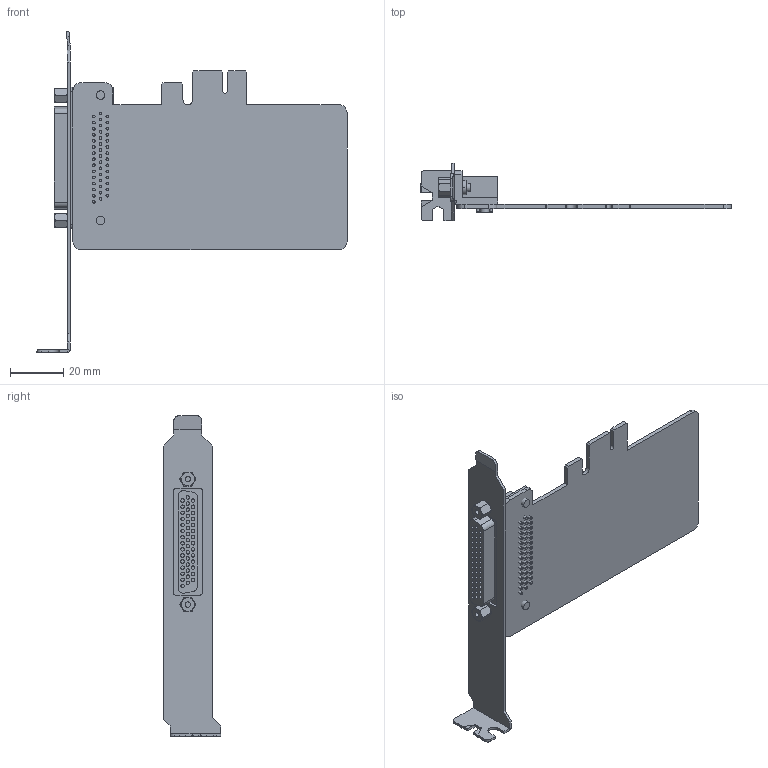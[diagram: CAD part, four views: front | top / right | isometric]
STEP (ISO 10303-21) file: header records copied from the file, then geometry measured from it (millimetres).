
FILE_DESCRIPTION((''),'2;1');
FILE_NAME('CP-114EL_ASM','2014-09-23T',('Vincent_Huang'),(''),'PRO/ENGINEER BY PARAMETRIC TECHNOLOGY CORPORATION, 2004320','PRO/ENGINEER BY PARAMETRIC TECHNOLOGY CORPORATION, 2004320','');
FILE_SCHEMA(('CONFIG_CONTROL_DESIGN'));
Length unit declared in the file: millimetre
Products named in the file (5): CP-114EL_PCB; 1126004440000_DB44_FM90D; 1401000003020_BRACKET; SPACER_M3X7L; CP-114EL_ASM
Assembly tree (5 placements, depth 2):
  CP-114EL_ASM
    CP-114EL_PCB
    1126004440000_DB44_FM90D
    1401000003020_BRACKET
    SPACER_M3X7L  x2
Bounding box: 116.54 x 21.59 x 120.59 mm (x, y, z)
Surface area: 22981.6 mm2 (no closed solid volume)
Topology: 0 solids, 7 shells, 442 faces, 973 edges, 638 vertices
Faces by surface type: cylinder 230, plane 196, bspline 8, torus 8
Entity records: 12371 total; most frequent: CARTESIAN_POINT 2465, DIRECTION 2219, ORIENTED_EDGE 1854, EDGE_CURVE 929, AXIS2_PLACEMENT_3D 880, VERTEX_POINT 610, EDGE_LOOP 527, VECTOR 459
